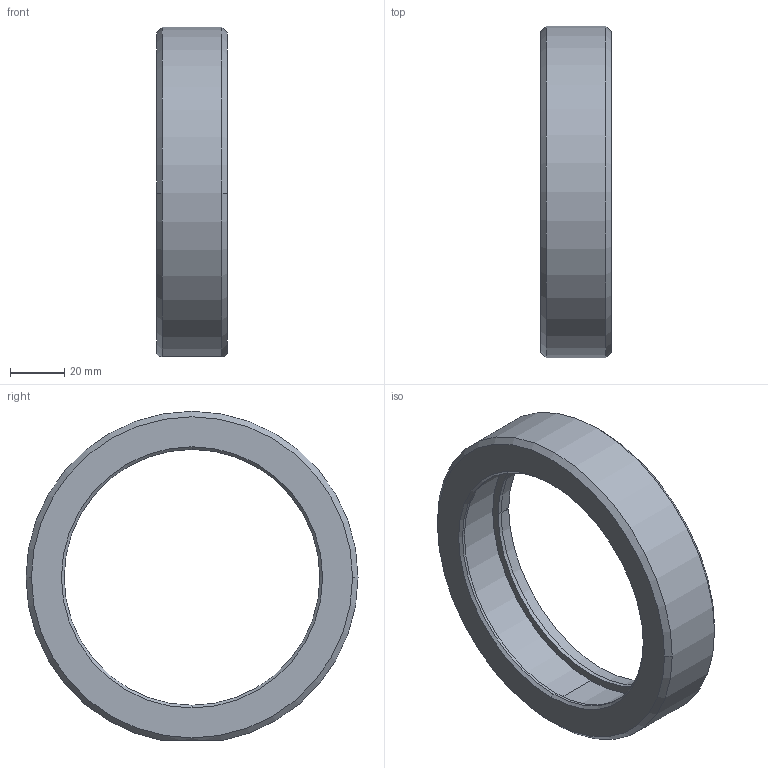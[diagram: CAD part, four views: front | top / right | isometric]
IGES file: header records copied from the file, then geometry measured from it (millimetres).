
Global section: file name: No Iges File Name specified; native system: AutoDesk Inventor R11.0; preprocessor: AutoDesk Inventor Iges Exporter R11.0; author: No Author specified; organization: No Organization specified; date: 20070917.114510; units: millimetre
Bounding box: 26 x 122 x 121 mm (x, y, z)
Volume: 98189.1 mm3; surface area: 28377.4 mm2
Topology: 1 solids, 1 shells, 56 faces, 135 edges, 83 vertices
Faces by surface type: plane 19, bspline 17, revolution 13, cone 6, cylinder 1
